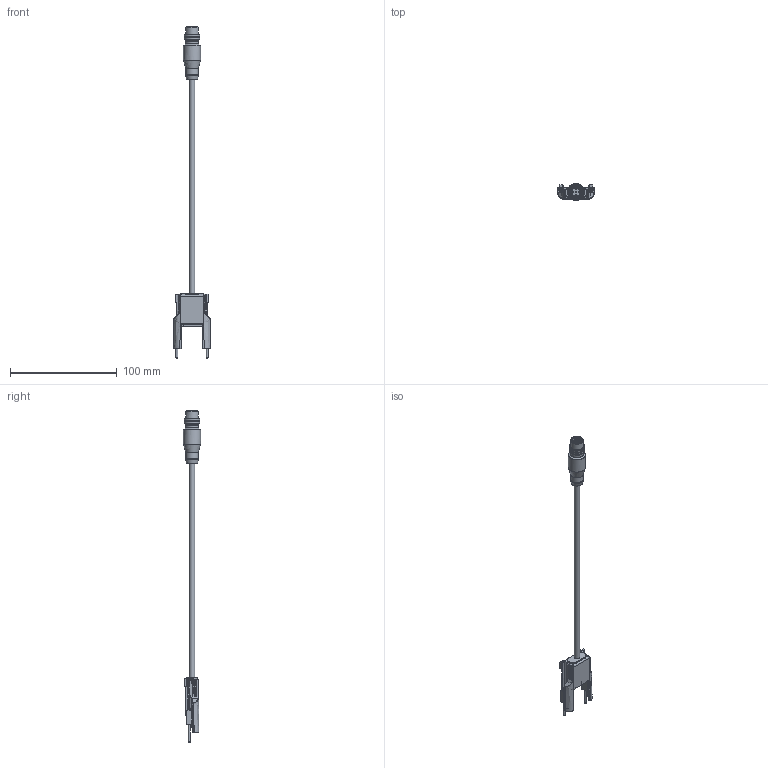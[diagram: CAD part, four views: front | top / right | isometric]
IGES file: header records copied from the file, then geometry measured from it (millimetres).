
Global section: file name: C:\Users\lrossetti\OneDrive - Datalogic S.p.a\Desktop\SG4E plugs - DSD igs\DSD-0341.igs; native system: NX V12.0; preprocessor: SIEMENS PLM Software NX 12.0; date: 20200605.160638; units: millimetre
Bounding box: 35 x 16 x 310.7 mm (x, y, z)
Surface area: 14004 mm2 (no closed solid volume)
Topology: 0 solids, 0 shells, 911 faces, 5133 edges, 4966 vertices
Faces by surface type: bspline 911
